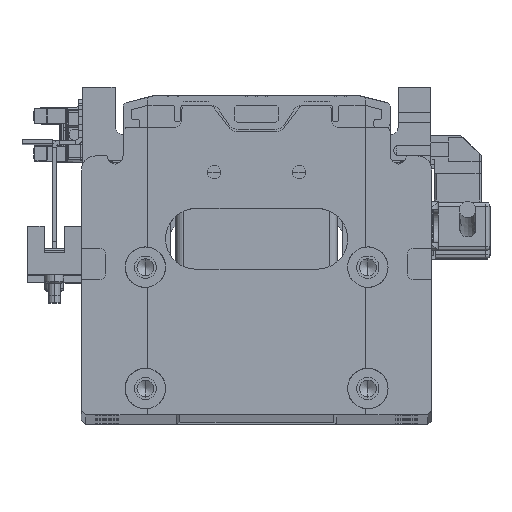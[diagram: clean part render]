
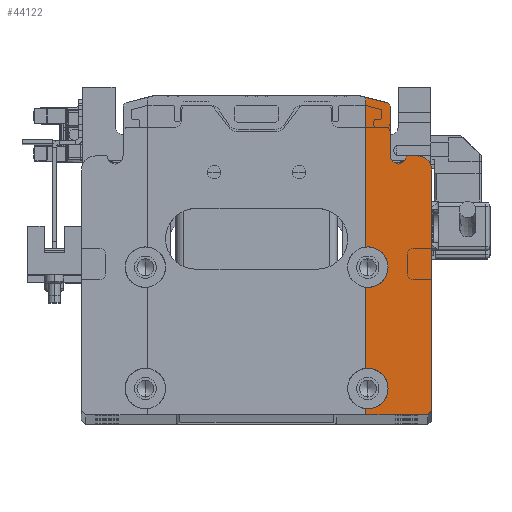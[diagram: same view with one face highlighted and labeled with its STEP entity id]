
A CAD part, top view. The second image highlights one B-rep face of the part: STEP entity #44122.
In plain terms, the highlighted planar face has unit normal (0, 0, 1).
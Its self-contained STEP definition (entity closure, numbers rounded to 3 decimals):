
#248 = CARTESIAN_POINT ( 'NONE',  ( 26., 38.219, 12.5 ) ) ;
#635 = CIRCLE ( 'NONE', #18594, 2. ) ;
#954 = AXIS2_PLACEMENT_3D ( 'NONE', #42608, #7154, #59146 ) ;
#1380 = VECTOR ( 'NONE', #39181, 1000. ) ;
#2101 = EDGE_CURVE ( 'NONE', #13455, #30367, #635, .T. ) ;
#2346 = CARTESIAN_POINT ( 'NONE',  ( 33., 24.5, 12.5 ) ) ;
#2795 = CARTESIAN_POINT ( 'NONE',  ( 27.5, -33., 12.5 ) ) ;
#3345 = DIRECTION ( 'NONE',  ( 0., -1., 0. ) ) ;
#4071 = VERTEX_POINT ( 'NONE', #40365 ) ;
#4333 = ORIENTED_EDGE ( 'NONE', *, *, #5937, .T. ) ;
#4346 = ORIENTED_EDGE ( 'NONE', *, *, #47009, .T. ) ;
#4420 = DIRECTION ( 'NONE',  ( -1., 0., 0. ) ) ;
#4472 = ORIENTED_EDGE ( 'NONE', *, *, #32714, .T. ) ;
#5937 = EDGE_CURVE ( 'NONE', #49419, #46650, #58516, .T. ) ;
#6115 = ORIENTED_EDGE ( 'NONE', *, *, #25124, .T. ) ;
#6492 = LINE ( 'NONE', #38781, #36527 ) ;
#6816 = EDGE_CURVE ( 'NONE', #4071, #45126, #56983, .T. ) ;
#7154 = DIRECTION ( 'NONE',  ( 0., 0., -1. ) ) ;
#7310 = LINE ( 'NONE', #36752, #27047 ) ;
#7485 = DIRECTION ( 'NONE',  ( -1., 0., 0. ) ) ;
#7551 = EDGE_CURVE ( 'NONE', #17785, #37374, #7310, .T. ) ;
#8242 = CIRCLE ( 'NONE', #954, 5. ) ;
#8591 = AXIS2_PLACEMENT_3D ( 'NONE', #52382, #48510, #34078 ) ;
#9327 = DIRECTION ( 'NONE',  ( -1., 0., 0. ) ) ;
#9623 = EDGE_CURVE ( 'NONE', #50906, #52722, #26499, .T. ) ;
#9961 = CARTESIAN_POINT ( 'NONE',  ( 43.3, -38.5, 12.5 ) ) ;
#10518 = ORIENTED_EDGE ( 'NONE', *, *, #47916, .T. ) ;
#11631 = LINE ( 'NONE', #14993, #50297 ) ;
#11634 = DIRECTION ( 'NONE',  ( 0., 0., -1. ) ) ;
#11801 = DIRECTION ( 'NONE',  ( 1., 0., 0. ) ) ;
#11893 = CARTESIAN_POINT ( 'NONE',  ( 39.8, 24.5, 12.5 ) ) ;
#12324 = CARTESIAN_POINT ( 'NONE',  ( 32., 36.719, 12.5 ) ) ;
#12369 = LINE ( 'NONE', #26724, #43119 ) ;
#13455 = VERTEX_POINT ( 'NONE', #16385 ) ;
#13846 = DIRECTION ( 'NONE',  ( 0., 0., -1. ) ) ;
#13870 = VERTEX_POINT ( 'NONE', #58963 ) ;
#14993 = CARTESIAN_POINT ( 'NONE',  ( 0., 24.5, 12.5 ) ) ;
#15576 = VECTOR ( 'NONE', #3345, 1000. ) ;
#16385 = CARTESIAN_POINT ( 'NONE',  ( 37., 24.5, 12.5 ) ) ;
#16731 = VERTEX_POINT ( 'NONE', #11893 ) ;
#17009 = ORIENTED_EDGE ( 'NONE', *, *, #42091, .T. ) ;
#17098 = AXIS2_PLACEMENT_3D ( 'NONE', #37541, #28334, #9327 ) ;
#17129 = CARTESIAN_POINT ( 'NONE',  ( 27., 38.219, 12.5 ) ) ;
#17785 = VERTEX_POINT ( 'NONE', #17930 ) ;
#17930 = CARTESIAN_POINT ( 'NONE',  ( 27., -39.5, 12.5 ) ) ;
#18565 = DIRECTION ( 'NONE',  ( -1., 0., 0. ) ) ;
#18594 = AXIS2_PLACEMENT_3D ( 'NONE', #37257, #28246, #55740 ) ;
#18681 = VECTOR ( 'NONE', #49839, 1000. ) ;
#18877 = CARTESIAN_POINT ( 'NONE',  ( 32.243, 37.689, 12.5 ) ) ;
#18897 = EDGE_CURVE ( 'NONE', #59282, #47372, #31776, .T. ) ;
#20015 = LINE ( 'NONE', #43968, #43413 ) ;
#20091 = CARTESIAN_POINT ( 'NONE',  ( 27., 1.975, 12.5 ) ) ;
#20615 = PLANE ( 'NONE',  #39428 ) ;
#21732 = CARTESIAN_POINT ( 'NONE',  ( 27., 39.5, 12.5 ) ) ;
#22335 = CARTESIAN_POINT ( 'NONE',  ( 10.765, 43.059, 12.5 ) ) ;
#22415 = CARTESIAN_POINT ( 'NONE',  ( 32.5, -33., 12.5 ) ) ;
#22942 = ORIENTED_EDGE ( 'NONE', *, *, #52793, .T. ) ;
#23083 = EDGE_LOOP ( 'NONE', ( #4346, #59753, #58449, #52494, #47384, #4333, #6115, #36803, #4472, #26433, #37365, #37382, #10518, #22942, #32608, #17009, #55487 ) ) ;
#23667 = LINE ( 'NONE', #21732, #15576 ) ;
#23760 = AXIS2_PLACEMENT_3D ( 'NONE', #46081, #59898, #4420 ) ;
#24741 = LINE ( 'NONE', #9961, #1380 ) ;
#24868 = DIRECTION ( 'NONE',  ( 0., 1., 0. ) ) ;
#25124 = EDGE_CURVE ( 'NONE', #46650, #37946, #25204, .T. ) ;
#25204 = CIRCLE ( 'NONE', #23760, 5. ) ;
#26433 = ORIENTED_EDGE ( 'NONE', *, *, #9623, .T. ) ;
#26499 = CIRCLE ( 'NONE', #40883, 5. ) ;
#26724 = CARTESIAN_POINT ( 'NONE',  ( 27., 39.5, 12.5 ) ) ;
#27047 = VECTOR ( 'NONE', #11801, 1000. ) ;
#27936 = CARTESIAN_POINT ( 'NONE',  ( 32.5, -3., 12.5 ) ) ;
#28246 = DIRECTION ( 'NONE',  ( 0., 0., -1. ) ) ;
#28334 = DIRECTION ( 'NONE',  ( 0., 0., -1. ) ) ;
#29286 = VECTOR ( 'NONE', #34679, 1000. ) ;
#29970 = CARTESIAN_POINT ( 'NONE',  ( 43.3, 39.5, 12.5 ) ) ;
#30367 = VERTEX_POINT ( 'NONE', #2346 ) ;
#31776 = CIRCLE ( 'NONE', #35120, 1. ) ;
#31940 = LINE ( 'NONE', #22335, #18681 ) ;
#32608 = ORIENTED_EDGE ( 'NONE', *, *, #46948, .T. ) ;
#32714 = EDGE_CURVE ( 'NONE', #13870, #50906, #8242, .T. ) ;
#34078 = DIRECTION ( 'NONE',  ( -1., 0., 0. ) ) ;
#34586 = DIRECTION ( 'NONE',  ( 0., -1., 0. ) ) ;
#34679 = DIRECTION ( 'NONE',  ( 0., 1., 0. ) ) ;
#35120 = AXIS2_PLACEMENT_3D ( 'NONE', #248, #13846, #18565 ) ;
#35527 = FACE_OUTER_BOUND ( 'NONE', #23083, .T. ) ;
#35628 = AXIS2_PLACEMENT_3D ( 'NONE', #12324, #54925, #54535 ) ;
#35873 = EDGE_CURVE ( 'NONE', #45126, #59282, #31940, .T. ) ;
#36165 = DIRECTION ( 'NONE',  ( 0., -1., 0. ) ) ;
#36527 = VECTOR ( 'NONE', #24868, 1000. ) ;
#36699 = VERTEX_POINT ( 'NONE', #57218 ) ;
#36752 = CARTESIAN_POINT ( 'NONE',  ( 43.3, -39.5, 12.5 ) ) ;
#36803 = ORIENTED_EDGE ( 'NONE', *, *, #37083, .T. ) ;
#37083 = EDGE_CURVE ( 'NONE', #37946, #13870, #20015, .T. ) ;
#37257 = CARTESIAN_POINT ( 'NONE',  ( 35., 24.5, 12.5 ) ) ;
#37365 = ORIENTED_EDGE ( 'NONE', *, *, #40430, .T. ) ;
#37374 = VERTEX_POINT ( 'NONE', #40675 ) ;
#37382 = ORIENTED_EDGE ( 'NONE', *, *, #7551, .T. ) ;
#37541 = CARTESIAN_POINT ( 'NONE',  ( 27.5, -3., 12.5 ) ) ;
#37946 = VERTEX_POINT ( 'NONE', #41631 ) ;
#38781 = CARTESIAN_POINT ( 'NONE',  ( 33., 0., 12.5 ) ) ;
#39181 = DIRECTION ( 'NONE',  ( 0.707, 0.707, 0. ) ) ;
#39428 = AXIS2_PLACEMENT_3D ( 'NONE', #53860, #11634, #53250 ) ;
#40365 = CARTESIAN_POINT ( 'NONE',  ( 33., 36.719, 12.5 ) ) ;
#40430 = EDGE_CURVE ( 'NONE', #52722, #17785, #12369, .T. ) ;
#40675 = CARTESIAN_POINT ( 'NONE',  ( 42.3, -39.5, 12.5 ) ) ;
#40883 = AXIS2_PLACEMENT_3D ( 'NONE', #2795, #49507, #7485 ) ;
#41631 = CARTESIAN_POINT ( 'NONE',  ( 27., -7.975, 12.5 ) ) ;
#42091 = EDGE_CURVE ( 'NONE', #16731, #13455, #11631, .T. ) ;
#42608 = CARTESIAN_POINT ( 'NONE',  ( 27.5, -33., 12.5 ) ) ;
#43119 = VECTOR ( 'NONE', #36165, 1000. ) ;
#43413 = VECTOR ( 'NONE', #34586, 1000. ) ;
#43968 = CARTESIAN_POINT ( 'NONE',  ( 27., 39.5, 12.5 ) ) ;
#44122 = ADVANCED_FACE ( 'NONE', ( #35527 ), #20615, .F. ) ;
#44431 = CARTESIAN_POINT ( 'NONE',  ( 26.243, 39.189, 12.5 ) ) ;
#45126 = VERTEX_POINT ( 'NONE', #18877 ) ;
#45499 = EDGE_CURVE ( 'NONE', #47372, #49419, #23667, .T. ) ;
#46081 = CARTESIAN_POINT ( 'NONE',  ( 27.5, -3., 12.5 ) ) ;
#46650 = VERTEX_POINT ( 'NONE', #27936 ) ;
#46901 = DIRECTION ( 'NONE',  ( -1., 0., 0. ) ) ;
#46948 = EDGE_CURVE ( 'NONE', #36699, #16731, #56892, .T. ) ;
#47009 = EDGE_CURVE ( 'NONE', #30367, #4071, #6492, .T. ) ;
#47333 = CARTESIAN_POINT ( 'NONE',  ( 43.3, -38.5, 12.5 ) ) ;
#47372 = VERTEX_POINT ( 'NONE', #17129 ) ;
#47384 = ORIENTED_EDGE ( 'NONE', *, *, #45499, .T. ) ;
#47705 = CARTESIAN_POINT ( 'NONE',  ( 27., -37.975, 12.5 ) ) ;
#47916 = EDGE_CURVE ( 'NONE', #37374, #55389, #24741, .T. ) ;
#48510 = DIRECTION ( 'NONE',  ( 0., 0., 1. ) ) ;
#49419 = VERTEX_POINT ( 'NONE', #20091 ) ;
#49507 = DIRECTION ( 'NONE',  ( 0., 0., -1. ) ) ;
#49839 = DIRECTION ( 'NONE',  ( -0.97, 0.243, 0. ) ) ;
#50297 = VECTOR ( 'NONE', #46901, 1000. ) ;
#50906 = VERTEX_POINT ( 'NONE', #22415 ) ;
#52382 = CARTESIAN_POINT ( 'NONE',  ( 39.8, 21., 12.5 ) ) ;
#52494 = ORIENTED_EDGE ( 'NONE', *, *, #18897, .T. ) ;
#52722 = VERTEX_POINT ( 'NONE', #47705 ) ;
#52793 = EDGE_CURVE ( 'NONE', #55389, #36699, #54057, .T. ) ;
#53250 = DIRECTION ( 'NONE',  ( -1., 0., 0. ) ) ;
#53860 = CARTESIAN_POINT ( 'NONE',  ( 0., 0., 12.5 ) ) ;
#54057 = LINE ( 'NONE', #29970, #29286 ) ;
#54535 = DIRECTION ( 'NONE',  ( -1., 0., 0. ) ) ;
#54925 = DIRECTION ( 'NONE',  ( 0., 0., 1. ) ) ;
#55389 = VERTEX_POINT ( 'NONE', #47333 ) ;
#55487 = ORIENTED_EDGE ( 'NONE', *, *, #2101, .T. ) ;
#55740 = DIRECTION ( 'NONE',  ( -1., 0., 0. ) ) ;
#56892 = CIRCLE ( 'NONE', #8591, 3.5 ) ;
#56983 = CIRCLE ( 'NONE', #35628, 1. ) ;
#57218 = CARTESIAN_POINT ( 'NONE',  ( 43.3, 21., 12.5 ) ) ;
#58449 = ORIENTED_EDGE ( 'NONE', *, *, #35873, .T. ) ;
#58516 = CIRCLE ( 'NONE', #17098, 5. ) ;
#58963 = CARTESIAN_POINT ( 'NONE',  ( 27., -28.025, 12.5 ) ) ;
#59146 = DIRECTION ( 'NONE',  ( -1., 0., 0. ) ) ;
#59282 = VERTEX_POINT ( 'NONE', #44431 ) ;
#59753 = ORIENTED_EDGE ( 'NONE', *, *, #6816, .T. ) ;
#59898 = DIRECTION ( 'NONE',  ( 0., 0., -1. ) ) ;
